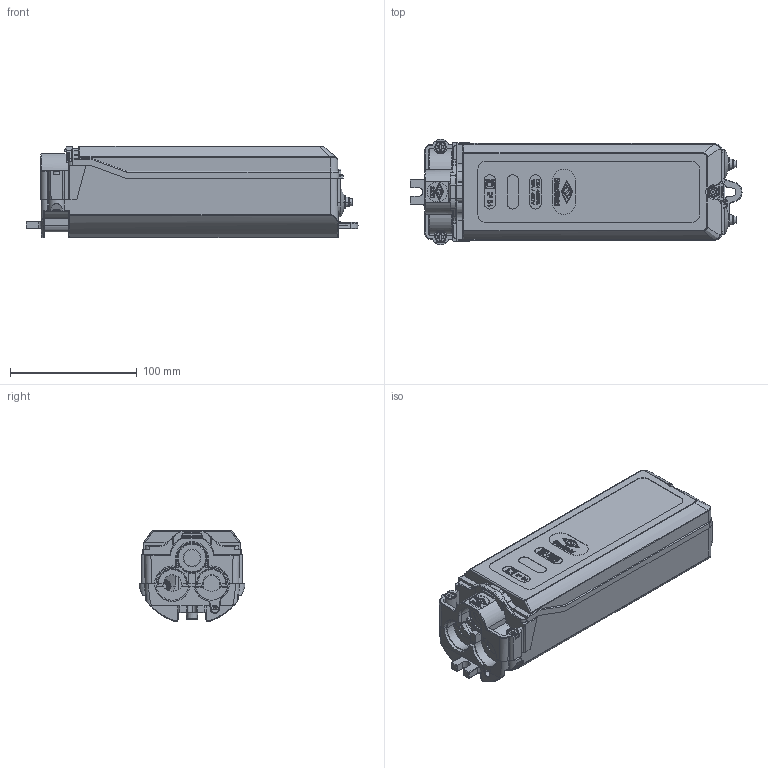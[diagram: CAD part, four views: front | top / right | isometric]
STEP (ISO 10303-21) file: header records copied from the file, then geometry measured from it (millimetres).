
FILE_DESCRIPTION (( 'STEP AP203' ), '1' );
FILE_NAME ('3D - HSW2330 Außenkontur.STEP', '2019-06-28T08:20:27', ( '' ), ( '' ), 'SwSTEP 2.0', 'SolidWorks 2013', '' );
FILE_SCHEMA (( 'CONFIG_CONTROL_DESIGN' ));
Length unit declared in the file: millimetre
Products named in the file (1): 3D - HSW2330 Außenkontur
Bounding box: 262.08 x 83.5 x 71.86 mm (x, y, z)
Surface area: 95025 mm2 (no closed solid volume)
Topology: 0 solids, 26 shells, 1174 faces, 4054 edges, 2819 vertices
Faces by surface type: plane 544, cylinder 282, bspline 164, torus 91, cone 81, sphere 12
Entity records: 54910 total; most frequent: CARTESIAN_POINT 22125, ORIENTED_EDGE 6627, DIRECTION 6135, EDGE_CURVE 4044, VERTEX_POINT 2819, LINE 2395, VECTOR 2395, AXIS2_PLACEMENT_3D 1870
